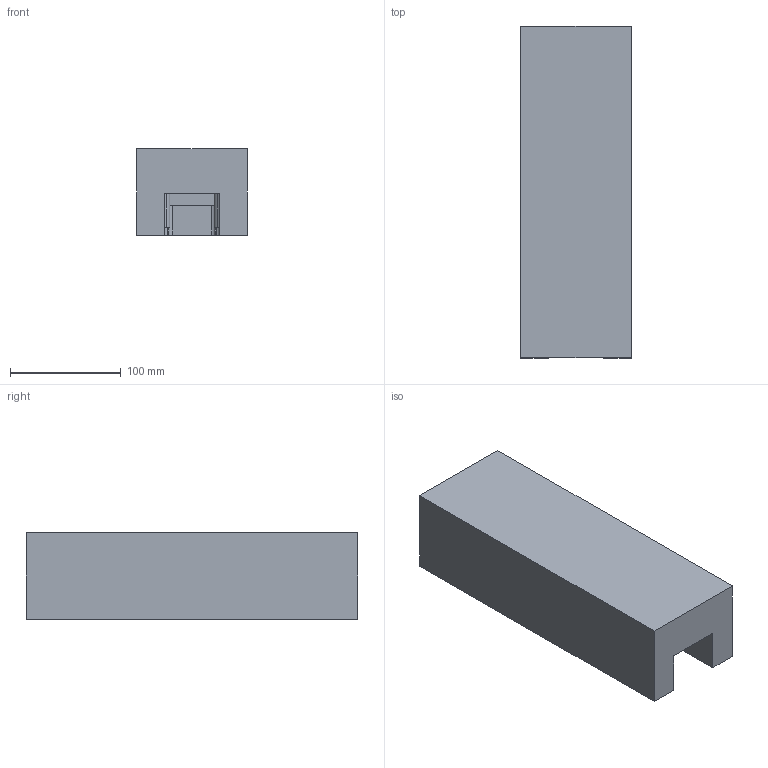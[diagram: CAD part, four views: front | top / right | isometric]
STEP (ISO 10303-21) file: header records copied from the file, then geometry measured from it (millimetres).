
FILE_DESCRIPTION(('CATIA V5 STEP Exchange','CAx-IF Rec.Pracs.--- Model Styling and Organization---1.5--- 2016-08-15','CAx-IF Rec.Pracs.---Supplemental Geometry---1.0---2011-11-01','CAx-IF Rec.Pracs.--- Composite Materials ---3.4---2017-06-13','CAx-IF Rec.Pracs.---Tessellated 3D Geometry---1.0---2015-12-17'),'2;1');
FILE_NAME('C:\Users\antpietri\Downloads\bloc mousse(4)\brut 2019 mousse.stp','2025-11-04T17:12:41+00:00',('none'),('none'),'CATIA Version 5-6 Release 2023 SP2','CATIA V5 STEP AP242 v3','none');
FILE_SCHEMA(('AP242_MANAGED_MODEL_BASED_3D_ENGINEERING_MIM_LF {1 0 10303 442 1 1 4}'));
Length unit declared in the file: millimetre
Products named in the file (1): 1-carrosserie SG
Bounding box: 100 x 300 x 78 mm (x, y, z)
Volume: 1936493.3 mm3; surface area: 140226.7 mm2
Topology: 1 solids, 1 shells, 30 faces, 84 edges, 56 vertices
Faces by surface type: plane 18, cylinder 12
Entity records: 974 total; most frequent: CARTESIAN_POINT 170, ORIENTED_EDGE 168, DIRECTION 142, EDGE_CURVE 84, VECTOR 60, LINE 60, VERTEX_POINT 56, AXIS2_PLACEMENT_3D 54
